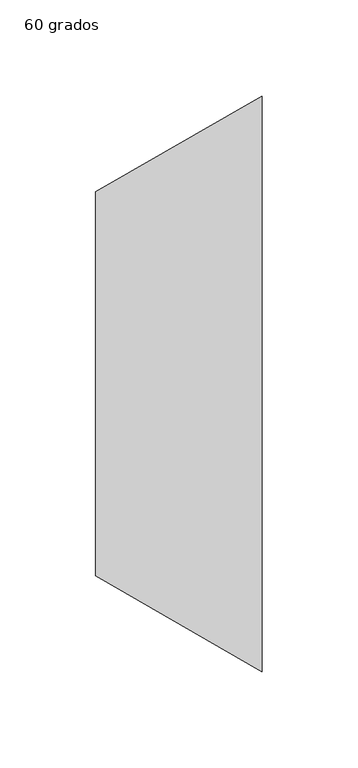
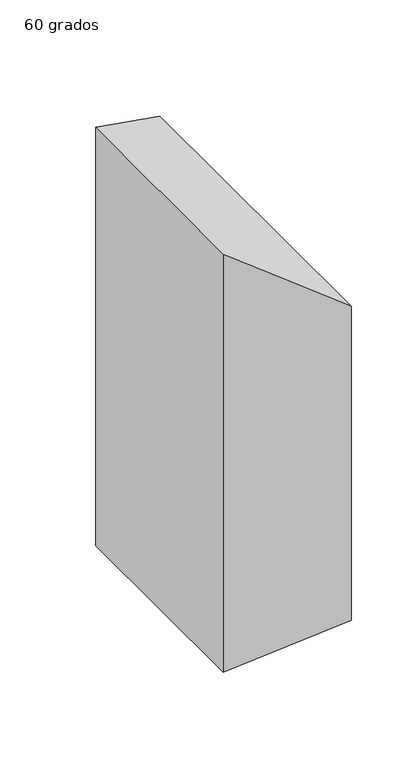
"""IFC4 building model written with IfcOpenShell, lengths in millimetres: duct fitting geometry, M_Transición rectangular - Ángulo : 60 grados."""

from ifc_helpers import new_model, si_unit, origin, place, context, project, spatial, faceted_brep, source, transform, mapped, element, save


def duct_fitting_60_grados_7c177903(model_context):
    return source(origin(), model_context, "Body", "Brep", [
        faceted_brep([(86.6025404, -150.0, 150.0), (86.6025404, -150.0, -150.0), (86.6025404, 150.0, -150.0), (86.6025404, 150.0, 150.0), (0.0, -100.0, 200.0), (0.0, 100.0, 200.0), (0.0, 100.0, -200.0), (0.0, -100.0, -200.0)], [[[0, 1, 2, 3]], [[4, 5, 6, 7]], [[4, 7, 1, 0]], [[7, 6, 2, 1]], [[6, 5, 3, 2]], [[5, 4, 0, 3]]]),
    ])


if __name__ == "__main__":
    model = new_model("IFC4")
    model_context = context("Model", 3, world=origin())
    ifc_project = project(units=[si_unit("LENGTHUNIT", "METRE", prefix="MILLI")], contexts=[model_context])
    site = spatial("IfcSite", under=ifc_project)
    building = spatial("IfcBuilding", under=site)
    placement = place(None, origin())
    duct_fitting_60_grados_shape = duct_fitting_60_grados_7c177903(model_context)
    element("IfcDuctFitting", 1, ObjectType="M_Transición rectangular - Ángulo : 60 grados", at=placement, inside=building, context=model_context, shape_type="MappedRepresentation", body=[
        mapped(duct_fitting_60_grados_shape, transform((0.0, 0.0, 0.0), x_axis=(1.0, 0.0, 0.0), y_axis=(0.0, 1.0, 0.0), z_axis=(0.0, 0.0, 1.0))),
    ])
    save(model, "model.ifc")
